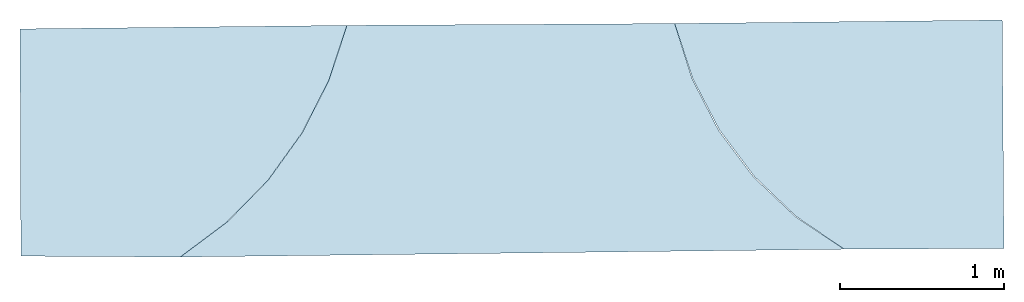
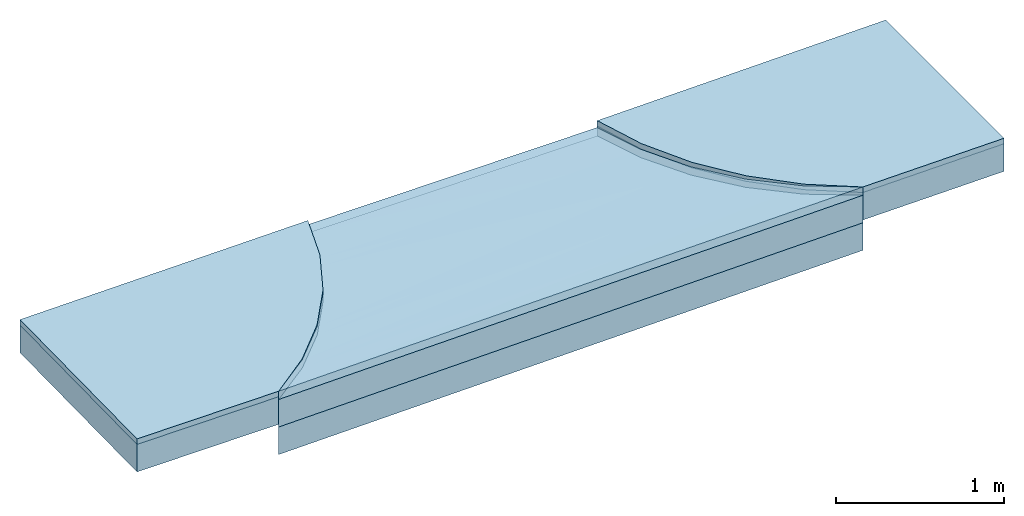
# One storey, part 1 of 2: 10 slabs.
"""IFC2X3 building model written with IfcOpenShell, lengths in metres."""

from ifc_helpers import new_model, si_unit, frame, origin, place, context, subcontext, project, spatial, faceted_brep, material, layer, layer_set, element, save


model = new_model("IFC2X3")

# Units and contexts
model_context = context("Model", 3, world=origin())
body_context = subcontext(model_context, "Body", "Model", "MODEL_VIEW")
ifc_project = project(units=[si_unit("LENGTHUNIT", "METRE"), si_unit("AREAUNIT", "SQUARE_METRE"), si_unit("VOLUMEUNIT", "CUBIC_METRE"), si_unit("PLANEANGLEUNIT", "RADIAN"), si_unit("MASSUNIT", "GRAM", prefix="KILO")], contexts=[model_context])

# Site, building, storey
site_placement = place(None, frame((0.012740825, -0.748863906, 0.77), z_axis=(0.0, 0.0, 1.0), x_axis=(1.0, 0.0, 0.0)))
site = spatial("IfcSite", under=ifc_project, at=site_placement, Name="Terrain", CompositionType="COMPLEX")
building_placement = place(site_placement, origin())
building = spatial("IfcBuilding", under=site, at=building_placement, Name="Non défini (Terrain)", CompositionType="ELEMENT")
storey_placement = place(building_placement, origin())
storey = spatial("IfcBuildingStorey", under=building, at=storey_placement, Name="Extérieur (Terrain)", CompositionType="ELEMENT")

# Slabs
ifc_material_1 = material(Name="Pavé béton")
slab_1_placement = place(storey_placement, origin())
element("IfcSlab", 1, at=slab_1_placement, inside=storey, material=ifc_material_1, Name="Pavé béton", ObjectType="Structure de surface projet", PredefinedType="NOTDEFINED", context=body_context, shape_type="Brep", body=[
    faceted_brep([(0.005421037, -1.38236425, -0.03), (0.005421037, -1.38236425, -0.07), (0.975786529, -1.387785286, -0.06), (0.975786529, -1.387785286, -0.02), (0.0, 0.0, 0.0), (0.0, 0.0, -0.04), (1.989520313, 0.021684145, 0.01), (1.989520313, 0.021684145, -0.03), (1.8776785, -0.315610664, 0.004), (1.8776785, -0.315610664, -0.036), (1.508670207, -0.920622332, -0.008), (1.508670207, -0.920622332, -0.048), (1.716158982, -0.632135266, -0.042), (1.716158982, -0.632135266, -0.002), (1.25997607, -1.174448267, -0.014), (1.25997607, -1.174448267, -0.054)], [[[0, 1, 2, 3]], [[4, 5, 1, 0]], [[0, 4, 3]], [[1, 5, 2]], [[6, 7, 5, 4]], [[8, 9, 7, 6]], [[6, 8, 4]], [[7, 9, 5]], [[10, 11, 12, 13]], [[10, 4, 13]], [[11, 5, 12]], [[14, 15, 11, 10]], [[14, 4, 10]], [[15, 5, 11]], [[3, 2, 15, 14]], [[3, 4, 14]], [[2, 5, 15]], [[13, 12, 9, 8]], [[13, 4, 8]], [[12, 5, 9]]], orient=[[True], [True], [False], [True], [True], [True], [False], [True], [True], [False], [True], [True], [False], [True], [True], [False], [True], [True], [False], [True]]),
])
ifc_material_2 = material(Name="Tout venant 0/31.5")
slab_2_placement = place(storey_placement, origin())
element("IfcSlab", 2, at=slab_2_placement, inside=storey, material=ifc_material_2, Name="Tout venant 0/31.5", ObjectType="Structure de surface projet", PredefinedType="NOTDEFINED", context=body_context, shape_type="Brep", body=[
    faceted_brep([(0.005421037, -1.38236425, -0.07), (0.005421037, -1.38236425, -0.27), (0.975786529, -1.387785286, -0.26), (0.975786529, -1.387785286, -0.06), (0.0, 0.0, -0.04), (0.0, 0.0, -0.24), (1.989520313, 0.021684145, -0.03), (1.989520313, 0.021684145, -0.23), (1.8776785, -0.315610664, -0.036), (1.8776785, -0.315610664, -0.236), (1.508670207, -0.920622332, -0.048), (1.508670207, -0.920622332, -0.248), (1.716158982, -0.632135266, -0.242), (1.716158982, -0.632135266, -0.042), (1.25997607, -1.174448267, -0.054), (1.25997607, -1.174448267, -0.254)], [[[0, 1, 2, 3]], [[4, 5, 1, 0]], [[0, 4, 3]], [[1, 5, 2]], [[6, 7, 5, 4]], [[8, 9, 7, 6]], [[6, 8, 4]], [[7, 9, 5]], [[10, 11, 12, 13]], [[10, 4, 13]], [[11, 5, 12]], [[14, 15, 11, 10]], [[14, 4, 10]], [[15, 5, 11]], [[3, 2, 15, 14]], [[3, 4, 14]], [[2, 5, 15]], [[13, 12, 9, 8]], [[13, 4, 8]], [[12, 5, 9]]], orient=[[True], [True], [False], [True], [True], [True], [False], [True], [True], [False], [True], [True], [False], [True], [True], [False], [True], [True], [False], [True]]),
])
ifc_layer_1 = layer(ifc_material_1, 0.04)
ifc_layer_2 = layer(ifc_material_2, 0.2)
ifc_layer_set_1 = layer_set([ifc_layer_1, ifc_layer_2])
slab_3_placement = place(storey_placement, origin())
element("IfcSlab", 3, at=slab_3_placement, inside=storey, material=ifc_layer_set_1, Name="1", ObjectType="Surface projet", PredefinedType="NOTDEFINED", context=body_context, shape_type="Brep", body=[
    faceted_brep([(0.005421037, -1.38236425, -0.03), (0.005421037, -1.38236425, -0.27), (0.975786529, -1.387785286, -0.26), (0.975786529, -1.387785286, -0.02), (0.0, 0.0, 0.0), (0.0, 0.0, -0.24), (1.989520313, 0.021684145, 0.01), (1.989520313, 0.021684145, -0.23), (1.8776785, -0.315610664, 0.004), (1.8776785, -0.315610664, -0.236), (1.508670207, -0.920622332, -0.008), (1.508670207, -0.920622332, -0.248), (1.716158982, -0.632135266, -0.242), (1.716158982, -0.632135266, -0.002), (1.25997607, -1.174448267, -0.014), (1.25997607, -1.174448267, -0.254)], [[[0, 1, 2, 3]], [[4, 5, 1, 0]], [[0, 4, 3]], [[1, 5, 2]], [[6, 7, 5, 4]], [[8, 9, 7, 6]], [[6, 8, 4]], [[7, 9, 5]], [[10, 11, 12, 13]], [[10, 4, 13]], [[11, 5, 12]], [[14, 15, 11, 10]], [[14, 4, 10]], [[15, 5, 11]], [[3, 2, 15, 14]], [[3, 4, 14]], [[2, 5, 15]], [[13, 12, 9, 8]], [[13, 4, 8]], [[12, 5, 9]]], orient=[[True], [True], [False], [True], [True], [True], [False], [True], [True], [False], [True], [True], [False], [True], [True], [False], [True], [True], [False], [True]]),
])
ifc_material_3 = material(Name="Enrobés")
slab_4_placement = place(storey_placement, origin())
element("IfcSlab", 4, at=slab_4_placement, inside=storey, material=ifc_material_3, Name="Enrobés", ObjectType="Structure de surface projet", PredefinedType="NOTDEFINED", context=body_context, shape_type="Brep", body=[
    faceted_brep([(1.989520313, 0.021684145, -0.02), (1.989520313, 0.021684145, -0.08), (1.878267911, -0.315911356, -0.08), (1.878267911, -0.315911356, -0.02), (4.089737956, -0.304233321, -0.012), (4.089737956, -0.304233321, -0.072), (1.260448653, -1.174911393, -0.02), (1.260448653, -1.174911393, -0.08), (0.975786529, -1.387785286, -0.08), (0.975786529, -1.387785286, -0.02), (4.720549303, -1.144225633, 0.012), (4.720549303, -1.144225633, -0.048), (4.463671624, -0.901334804, -0.056), (4.463671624, -0.901334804, 0.004), (4.251378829, -0.618644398, -0.004), (4.251378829, -0.618644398, -0.064), (3.983368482, 0.032912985, -0.08), (3.983368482, 0.032912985, -0.02), (1.50944663, -0.92124266, -0.02), (1.50944663, -0.92124266, -0.08), (1.716994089, -0.632674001, -0.08), (1.716994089, -0.632674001, -0.02), (5.014670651, -1.340375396, 0.02), (5.014670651, -1.340375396, -0.04)], [[[0, 1, 2, 3]], [[3, 0, 4]], [[2, 1, 5]], [[6, 7, 8, 9]], [[9, 6, 10]], [[8, 7, 11]], [[10, 11, 12, 13]], [[10, 6, 13]], [[11, 7, 12]], [[14, 15, 5, 4]], [[3, 4, 14]], [[2, 5, 15]], [[4, 5, 16, 17]], [[17, 16, 1, 0]], [[0, 17, 4]], [[1, 16, 5]], [[13, 12, 15, 14]], [[13, 18, 14]], [[12, 19, 15]], [[3, 2, 20, 21]], [[14, 21, 3]], [[15, 20, 2]], [[21, 20, 19, 18]], [[21, 14, 18]], [[20, 15, 19]], [[18, 19, 7, 6]], [[18, 13, 6]], [[19, 12, 7]], [[22, 23, 11, 10]], [[9, 8, 23, 22]], [[22, 9, 10]], [[23, 8, 11]]], orient=[[True], [False], [True], [True], [False], [True], [True], [False], [True], [True], [False], [True], [True], [True], [False], [True], [True], [False], [True], [True], [False], [True], [True], [False], [True], [True], [False], [True], [True], [True], [False], [True]]),
])
ifc_material_4 = material(Name="GB 0/14")
slab_5_placement = place(storey_placement, origin())
element("IfcSlab", 5, at=slab_5_placement, inside=storey, material=ifc_material_4, Name="GB 0/14", ObjectType="Structure de surface projet", PredefinedType="NOTDEFINED", context=body_context, shape_type="Brep", body=[
    faceted_brep([(1.989520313, 0.021684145, -0.08), (1.989520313, 0.021684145, -0.28), (1.878267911, -0.315911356, -0.28), (1.878267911, -0.315911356, -0.08), (4.089737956, -0.304233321, -0.072), (4.089737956, -0.304233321, -0.272), (1.260448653, -1.174911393, -0.08), (1.260448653, -1.174911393, -0.28), (0.975786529, -1.387785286, -0.28), (0.975786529, -1.387785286, -0.08), (4.720549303, -1.144225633, -0.048), (4.720549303, -1.144225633, -0.248), (4.463671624, -0.901334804, -0.256), (4.463671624, -0.901334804, -0.056), (4.251378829, -0.618644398, -0.064), (4.251378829, -0.618644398, -0.264), (3.983368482, 0.032912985, -0.28), (3.983368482, 0.032912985, -0.08), (1.50944663, -0.92124266, -0.08), (1.50944663, -0.92124266, -0.28), (1.716994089, -0.632674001, -0.28), (1.716994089, -0.632674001, -0.08), (5.014670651, -1.340375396, -0.04), (5.014670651, -1.340375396, -0.24)], [[[0, 1, 2, 3]], [[3, 0, 4]], [[2, 1, 5]], [[6, 7, 8, 9]], [[9, 6, 10]], [[8, 7, 11]], [[10, 11, 12, 13]], [[10, 6, 13]], [[11, 7, 12]], [[14, 15, 5, 4]], [[3, 4, 14]], [[2, 5, 15]], [[4, 5, 16, 17]], [[17, 16, 1, 0]], [[0, 17, 4]], [[1, 16, 5]], [[13, 12, 15, 14]], [[13, 18, 14]], [[12, 19, 15]], [[3, 2, 20, 21]], [[14, 21, 3]], [[15, 20, 2]], [[21, 20, 19, 18]], [[21, 14, 18]], [[20, 15, 19]], [[18, 19, 7, 6]], [[18, 13, 6]], [[19, 12, 7]], [[22, 23, 11, 10]], [[9, 8, 23, 22]], [[22, 9, 10]], [[23, 8, 11]]], orient=[[True], [False], [True], [True], [False], [True], [True], [False], [True], [True], [False], [True], [True], [True], [False], [True], [True], [False], [True], [True], [False], [True], [True], [False], [True], [True], [False], [True], [True], [True], [False], [True]]),
])
ifc_material_5 = material(Name="GNT 0/31.5")
slab_6_placement = place(storey_placement, origin())
element("IfcSlab", 6, at=slab_6_placement, inside=storey, material=ifc_material_5, Name="GNT 0/31.5", ObjectType="Structure de surface projet", PredefinedType="NOTDEFINED", context=body_context, shape_type="Brep", body=[
    faceted_brep([(1.989520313, 0.021684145, -0.28), (1.989520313, 0.021684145, -0.48), (1.878267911, -0.315911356, -0.48), (1.878267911, -0.315911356, -0.28), (4.089737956, -0.304233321, -0.272), (4.089737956, -0.304233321, -0.472), (1.260448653, -1.174911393, -0.28), (1.260448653, -1.174911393, -0.48), (0.975786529, -1.387785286, -0.48), (0.975786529, -1.387785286, -0.28), (4.720549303, -1.144225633, -0.248), (4.720549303, -1.144225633, -0.448), (4.463671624, -0.901334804, -0.456), (4.463671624, -0.901334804, -0.256), (4.251378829, -0.618644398, -0.264), (4.251378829, -0.618644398, -0.464), (3.983368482, 0.032912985, -0.48), (3.983368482, 0.032912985, -0.28), (1.50944663, -0.92124266, -0.28), (1.50944663, -0.92124266, -0.48), (1.716994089, -0.632674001, -0.48), (1.716994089, -0.632674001, -0.28), (5.014670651, -1.340375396, -0.24), (5.014670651, -1.340375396, -0.44)], [[[0, 1, 2, 3]], [[3, 0, 4]], [[2, 1, 5]], [[6, 7, 8, 9]], [[9, 6, 10]], [[8, 7, 11]], [[10, 11, 12, 13]], [[10, 6, 13]], [[11, 7, 12]], [[14, 15, 5, 4]], [[3, 4, 14]], [[2, 5, 15]], [[4, 5, 16, 17]], [[17, 16, 1, 0]], [[0, 17, 4]], [[1, 16, 5]], [[13, 12, 15, 14]], [[13, 18, 14]], [[12, 19, 15]], [[3, 2, 20, 21]], [[14, 21, 3]], [[15, 20, 2]], [[21, 20, 19, 18]], [[21, 14, 18]], [[20, 15, 19]], [[18, 19, 7, 6]], [[18, 13, 6]], [[19, 12, 7]], [[22, 23, 11, 10]], [[9, 8, 23, 22]], [[22, 9, 10]], [[23, 8, 11]]], orient=[[True], [False], [True], [True], [False], [True], [True], [False], [True], [True], [False], [True], [True], [True], [False], [True], [True], [False], [True], [True], [False], [True], [True], [False], [True], [True], [False], [True], [True], [True], [False], [True]]),
])
ifc_layer_3 = layer(ifc_material_3, 0.06)
ifc_layer_4 = layer(ifc_material_4, 0.2)
ifc_layer_5 = layer(ifc_material_5, 0.2)
ifc_layer_set_2 = layer_set([ifc_layer_3, ifc_layer_4, ifc_layer_5])
slab_7_placement = place(storey_placement, origin())
element("IfcSlab", 7, at=slab_7_placement, inside=storey, material=ifc_layer_set_2, Name="3", ObjectType="Surface projet", PredefinedType="NOTDEFINED", context=body_context, shape_type="Brep", body=[
    faceted_brep([(1.989520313, 0.021684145, -0.02), (1.989520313, 0.021684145, -0.48), (1.878267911, -0.315911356, -0.48), (1.878267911, -0.315911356, -0.02), (4.089737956, -0.304233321, -0.012), (4.089737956, -0.304233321, -0.472), (1.260448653, -1.174911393, -0.02), (1.260448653, -1.174911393, -0.48), (0.975786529, -1.387785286, -0.48), (0.975786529, -1.387785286, -0.02), (4.720549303, -1.144225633, 0.012), (4.720549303, -1.144225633, -0.448), (4.463671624, -0.901334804, -0.456), (4.463671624, -0.901334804, 0.004), (4.251378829, -0.618644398, -0.004), (4.251378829, -0.618644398, -0.464), (3.983368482, 0.032912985, -0.48), (3.983368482, 0.032912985, -0.02), (1.50944663, -0.92124266, -0.02), (1.50944663, -0.92124266, -0.48), (1.716994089, -0.632674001, -0.48), (1.716994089, -0.632674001, -0.02), (5.014670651, -1.340375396, 0.02), (5.014670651, -1.340375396, -0.44)], [[[0, 1, 2, 3]], [[3, 0, 4]], [[2, 1, 5]], [[6, 7, 8, 9]], [[9, 6, 10]], [[8, 7, 11]], [[10, 11, 12, 13]], [[10, 6, 13]], [[11, 7, 12]], [[14, 15, 5, 4]], [[3, 4, 14]], [[2, 5, 15]], [[4, 5, 16, 17]], [[17, 16, 1, 0]], [[0, 17, 4]], [[1, 16, 5]], [[13, 12, 15, 14]], [[13, 18, 14]], [[12, 19, 15]], [[3, 2, 20, 21]], [[14, 21, 3]], [[15, 20, 2]], [[21, 20, 19, 18]], [[21, 14, 18]], [[20, 15, 19]], [[18, 19, 7, 6]], [[18, 13, 6]], [[19, 12, 7]], [[22, 23, 11, 10]], [[9, 8, 23, 22]], [[22, 9, 10]], [[23, 8, 11]]], orient=[[True], [False], [True], [True], [False], [True], [True], [False], [True], [True], [False], [True], [True], [True], [False], [True], [True], [False], [True], [True], [False], [True], [True], [False], [True], [True], [False], [True], [True], [True], [False], [True]]),
])
ifc_material_6 = material(Name="Dallage béton")
slab_8_placement = place(storey_placement, origin())
element("IfcSlab", 8, at=slab_8_placement, inside=storey, material=ifc_material_6, Name="Dallage béton", ObjectType="Structure de surface projet", PredefinedType="NOTDEFINED", context=body_context, shape_type="Brep", body=[
    faceted_brep([(4.723178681, -1.141462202, 0.022), (4.723178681, -1.141462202, -0.018), (5.014670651, -1.340375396, -0.02), (5.014670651, -1.340375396, 0.02), (5.976506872, 0.054287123, 0.05), (5.976506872, 0.054287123, 0.01), (5.987193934, -1.335031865, -0.01), (5.987193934, -1.335031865, 0.03), (4.468056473, -0.897645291, 0.024), (4.468056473, -0.897645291, -0.016), (4.256144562, -0.615462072, 0.026), (4.256144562, -0.615462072, -0.014), (4.093124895, -0.302478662, 0.028), (4.093124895, -0.302478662, -0.012), (3.983368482, 0.032912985, 0.03), (3.983368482, 0.032912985, -0.01)], [[[0, 1, 2, 3]], [[4, 3, 0]], [[5, 2, 1]], [[3, 2, 6, 7]], [[7, 6, 5, 4]], [[4, 7, 3]], [[5, 6, 2]], [[8, 9, 1, 0]], [[8, 4, 0]], [[9, 5, 1]], [[10, 11, 9, 8]], [[4, 8, 10]], [[5, 9, 11]], [[12, 13, 11, 10]], [[4, 10, 12]], [[5, 11, 13]], [[14, 15, 13, 12]], [[4, 5, 15, 14]], [[14, 4, 12]], [[15, 5, 13]]], orient=[[True], [False], [True], [True], [True], [False], [True], [True], [False], [True], [True], [False], [True], [True], [False], [True], [True], [True], [False], [True]]),
])
slab_9_placement = place(storey_placement, origin())
element("IfcSlab", 9, at=slab_9_placement, inside=storey, material=ifc_material_2, Name="Tout venant 0/31.5", ObjectType="Structure de surface projet", PredefinedType="NOTDEFINED", context=body_context, shape_type="Brep", body=[
    faceted_brep([(4.723178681, -1.141462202, -0.018), (4.723178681, -1.141462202, -0.218), (5.014670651, -1.340375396, -0.22), (5.014670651, -1.340375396, -0.02), (5.976506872, 0.054287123, 0.01), (5.976506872, 0.054287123, -0.19), (5.987193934, -1.335031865, -0.21), (5.987193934, -1.335031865, -0.01), (4.468056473, -0.897645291, -0.016), (4.468056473, -0.897645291, -0.216), (4.256144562, -0.615462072, -0.014), (4.256144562, -0.615462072, -0.214), (4.093124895, -0.302478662, -0.012), (4.093124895, -0.302478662, -0.212), (3.983368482, 0.032912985, -0.01), (3.983368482, 0.032912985, -0.21)], [[[0, 1, 2, 3]], [[4, 3, 0]], [[5, 2, 1]], [[3, 2, 6, 7]], [[7, 6, 5, 4]], [[4, 7, 3]], [[5, 6, 2]], [[8, 9, 1, 0]], [[8, 4, 0]], [[9, 5, 1]], [[10, 11, 9, 8]], [[4, 8, 10]], [[5, 9, 11]], [[12, 13, 11, 10]], [[4, 10, 12]], [[5, 11, 13]], [[14, 15, 13, 12]], [[4, 5, 15, 14]], [[14, 4, 12]], [[15, 5, 13]]], orient=[[True], [False], [True], [True], [True], [False], [True], [True], [False], [True], [True], [False], [True], [True], [False], [True], [True], [True], [False], [True]]),
])
ifc_layer_6 = layer(ifc_material_6, 0.04)
ifc_layer_7 = layer(ifc_material_2, 0.2)
ifc_layer_set_3 = layer_set([ifc_layer_6, ifc_layer_7])
slab_10_placement = place(storey_placement, origin())
element("IfcSlab", 10, at=slab_10_placement, inside=storey, material=ifc_layer_set_3, Name="2", ObjectType="Surface projet", PredefinedType="NOTDEFINED", context=body_context, shape_type="Brep", body=[
    faceted_brep([(4.723178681, -1.141462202, 0.022), (4.723178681, -1.141462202, -0.218), (5.014670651, -1.340375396, -0.22), (5.014670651, -1.340375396, 0.02), (5.976506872, 0.054287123, 0.05), (5.976506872, 0.054287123, -0.19), (5.987193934, -1.335031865, -0.21), (5.987193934, -1.335031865, 0.03), (4.468056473, -0.897645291, 0.024), (4.468056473, -0.897645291, -0.216), (4.256144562, -0.615462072, 0.026), (4.256144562, -0.615462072, -0.214), (4.093124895, -0.302478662, 0.028), (4.093124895, -0.302478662, -0.212), (3.983368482, 0.032912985, 0.03), (3.983368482, 0.032912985, -0.21)], [[[0, 1, 2, 3]], [[4, 3, 0]], [[5, 2, 1]], [[3, 2, 6, 7]], [[7, 6, 5, 4]], [[4, 7, 3]], [[5, 6, 2]], [[8, 9, 1, 0]], [[8, 4, 0]], [[9, 5, 1]], [[10, 11, 9, 8]], [[4, 8, 10]], [[5, 9, 11]], [[12, 13, 11, 10]], [[4, 10, 12]], [[5, 11, 13]], [[14, 15, 13, 12]], [[4, 5, 15, 14]], [[14, 4, 12]], [[15, 5, 13]]], orient=[[True], [False], [True], [True], [True], [False], [True], [True], [False], [True], [True], [False], [True], [True], [False], [True], [True], [True], [False], [True]]),
])

save(model, "model.ifc")
